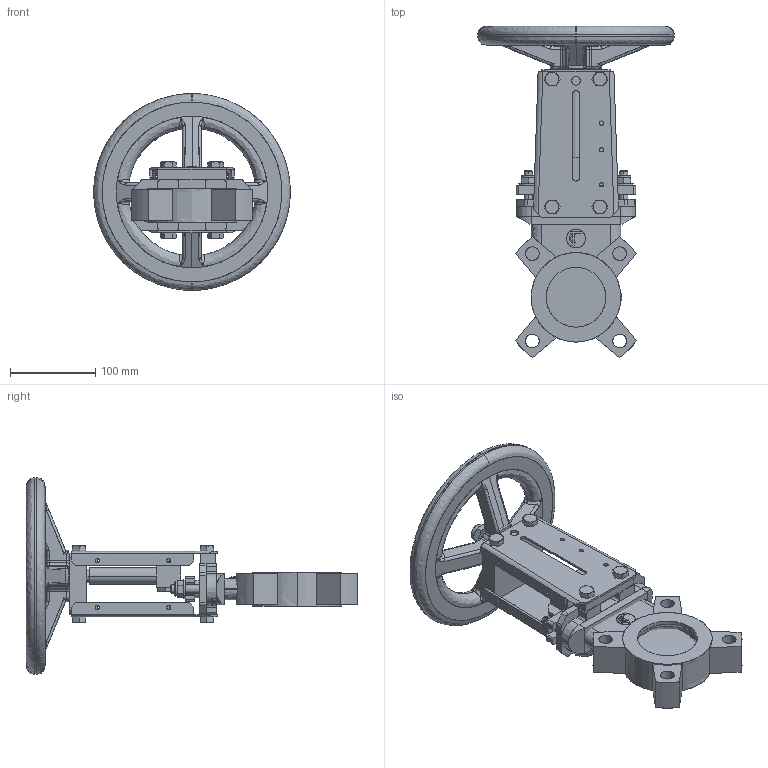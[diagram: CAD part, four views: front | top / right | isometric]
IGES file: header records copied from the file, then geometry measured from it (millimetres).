
Start section: SolidWorks IGES file using analytic representation for surfaces
Global section: file name: D:\part\3D Projects\VG-NON RASING(DN50-600)\VG N DN65\VG N DN65.IGS; native system: SolidWorks 2009; preprocessor: SolidWorks 2009; author: zhixin.zheng; date: 100127.104642; units: millimetre
Bounding box: 231 x 388.97 x 231 mm (x, y, z)
Surface area: 361240.8 mm2 (no closed solid volume)
Topology: 0 solids, 0 shells, 825 faces, 8477 edges, 8469 vertices
Faces by surface type: bspline 480, revolution 345
